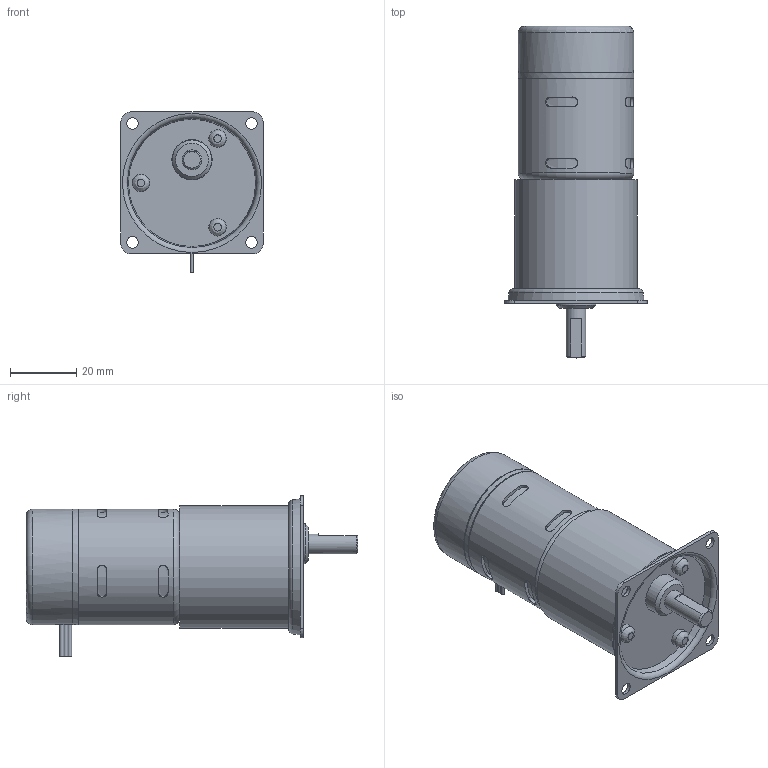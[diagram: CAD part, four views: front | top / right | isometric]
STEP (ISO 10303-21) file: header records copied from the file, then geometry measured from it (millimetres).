
FILE_DESCRIPTION((''),'2;1');
FILE_NAME('C:\Documents and Settings\SSEGAWA\デスクトップ\TP-3546B-PM-6.STP','2013-07-30T16:58:09',('SSEGAWA'),(''),'Autodesk Inventor 2010','Autodesk Inventor 2010','');
FILE_SCHEMA(('CONFIG_CONTROL_DESIGN'));
Length unit declared in the file: millimetre
Products named in the file (1): tp_3546bd_pm_6_Shrinkwrap_1
Bounding box: 43 x 100.5 x 48.5 mm (x, y, z)
Volume: 82779.6 mm3; surface area: 15631 mm2
Topology: 1 solids, 13 shells, 144 faces, 305 edges, 198 vertices
Faces by surface type: plane 62, cylinder 51, bspline 23, torus 4, cone 4
Full cylindrical faces by diameter (mm): 1.2 x2, 4 x3, 5.3 x3, 6 x1, 12 x1, 12.2 x1, 34.6 x1, 35 x3, 37 x1
Entity records: 4498 total; most frequent: CARTESIAN_POINT 1592, DIRECTION 573, ORIENTED_EDGE 474, AXIS2_PLACEMENT_3D 248, EDGE_CURVE 237, EDGE_LOOP 209, VERTEX_POINT 174, STYLED_ITEM 145
